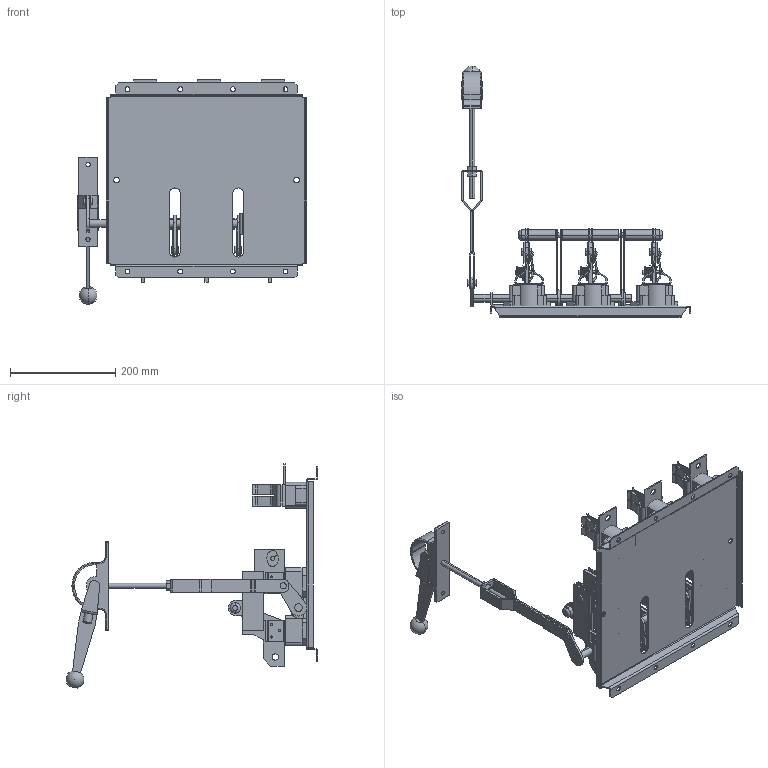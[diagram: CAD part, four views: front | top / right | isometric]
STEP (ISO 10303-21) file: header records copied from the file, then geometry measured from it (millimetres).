
FILE_DESCRIPTION (( 'STEP AP203' ), '1' );
FILE_NAME ('Ðàçúåäèíèòåëü ÐÏÑ-6 630À ëåâûé ïðèâîä, áåç ÏÏÍ (rps-630l).STEP', '2018-09-04T06:57:46', ( '' ), ( '' ), 'SwSTEP 2.0', 'SolidWorks 2017', '' );
FILE_SCHEMA (( 'CONFIG_CONTROL_DESIGN' ));
Products named in the file (1): Ðàçúåäèíèòåëü ÐÏÑ-6 630À ëåâûé ïðèâîä, áåç ÏÏÍ (rps-630l)
Bounding box: 435.25 x 478.23 x 425.58 mm (x, y, z)
Volume: 2365923.9 mm3; surface area: 843705.5 mm2
Topology: 86 solids, 86 shells, 1576 faces, 3749 edges, 2375 vertices
Faces by surface type: plane 978, cylinder 566, torus 14, bspline 12, sphere 6
Entity records: 49585 total; most frequent: CARTESIAN_POINT 12146, DIRECTION 8018, ORIENTED_EDGE 7480, EDGE_CURVE 3740, AXIS2_PLACEMENT_3D 2746, VECTOR 2526, LINE 2526, VERTEX_POINT 2372
